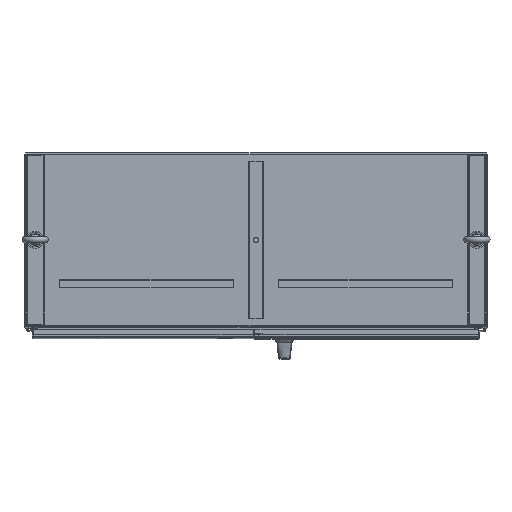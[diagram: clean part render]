
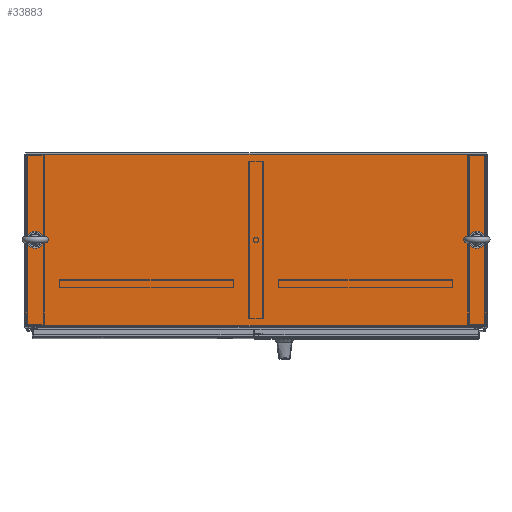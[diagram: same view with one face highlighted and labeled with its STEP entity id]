
A CAD part, top view. The second image highlights one B-rep face of the part: STEP entity #33883.
In plain terms, the highlighted planar face has unit normal (0, 0, 1).
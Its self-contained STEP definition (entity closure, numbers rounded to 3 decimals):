
#2341=CIRCLE('',#36137,9.525);
#2342=CIRCLE('',#36138,9.525);
#3949=ORIENTED_EDGE('',*,*,#13717,.F.);
#3950=ORIENTED_EDGE('',*,*,#13718,.F.);
#3951=ORIENTED_EDGE('',*,*,#13706,.T.);
#3952=ORIENTED_EDGE('',*,*,#13719,.T.);
#3953=ORIENTED_EDGE('',*,*,#13714,.T.);
#3954=ORIENTED_EDGE('',*,*,#13720,.T.);
#13706=EDGE_CURVE('',#18648,#18647,#22018,.T.);
#13714=EDGE_CURVE('',#18655,#18654,#22024,.T.);
#13717=EDGE_CURVE('',#18657,#18657,#2341,.T.);
#13718=EDGE_CURVE('',#18658,#18658,#2342,.T.);
#13719=EDGE_CURVE('',#18647,#18655,#22026,.T.);
#13720=EDGE_CURVE('',#18654,#18648,#22027,.T.);
#18647=VERTEX_POINT('',#48109);
#18648=VERTEX_POINT('',#48111);
#18654=VERTEX_POINT('',#48125);
#18655=VERTEX_POINT('',#48127);
#18657=VERTEX_POINT('',#48133);
#18658=VERTEX_POINT('',#48135);
#22018=LINE('',#48110,#25286);
#22024=LINE('',#48126,#25292);
#22026=LINE('',#48136,#25294);
#22027=LINE('',#48137,#25295);
#25286=VECTOR('',#39365,1000.);
#25292=VECTOR('',#39377,1000.);
#25294=VECTOR('',#39387,1000.);
#25295=VECTOR('',#39388,1000.);
#28415=EDGE_LOOP('',(#3949));
#28416=EDGE_LOOP('',(#3950));
#28417=EDGE_LOOP('',(#3951,#3952,#3953,#3954));
#30598=FACE_BOUND('',#28415,.T.);
#30599=FACE_BOUND('',#28416,.T.);
#30600=FACE_BOUND('',#28417,.T.);
#32734=PLANE('',#36136);
#33883=ADVANCED_FACE('',(#30598,#30599,#30600),#32734,.T.);
#36136=AXIS2_PLACEMENT_3D('',#48131,#39381,#39382);
#36137=AXIS2_PLACEMENT_3D('',#48132,#39383,#39384);
#36138=AXIS2_PLACEMENT_3D('',#48134,#39385,#39386);
#39365=DIRECTION('',(0.,-1.,0.));
#39377=DIRECTION('',(0.,1.,0.));
#39381=DIRECTION('',(0.,0.,1.));
#39382=DIRECTION('',(1.,0.,0.));
#39383=DIRECTION('',(0.,0.,1.));
#39384=DIRECTION('',(0.,-1.,0.));
#39385=DIRECTION('',(0.,0.,1.));
#39386=DIRECTION('',(0.,-1.,0.));
#39387=DIRECTION('',(1.,0.,0.));
#39388=DIRECTION('',(-1.,0.,0.));
#48109=CARTESIAN_POINT('',(-455.193,1376.883,0.));
#48110=CARTESIAN_POINT('',(-455.193,1828.8,0.));
#48111=CARTESIAN_POINT('',(-455.193,1828.8,0.));
#48125=CARTESIAN_POINT('',(760.705,1828.8,0.));
#48126=CARTESIAN_POINT('',(760.705,1373.251,0.));
#48127=CARTESIAN_POINT('',(760.705,1376.883,0.));
#48131=CARTESIAN_POINT('',(-455.193,1373.251,0.));
#48132=CARTESIAN_POINT('',(-429.793,1603.007,0.));
#48133=CARTESIAN_POINT('',(-429.793,1593.482,0.));
#48134=CARTESIAN_POINT('',(735.305,1603.007,0.));
#48135=CARTESIAN_POINT('',(735.305,1593.482,0.));
#48136=CARTESIAN_POINT('',(-455.193,1376.883,0.));
#48137=CARTESIAN_POINT('',(760.705,1828.8,0.));
